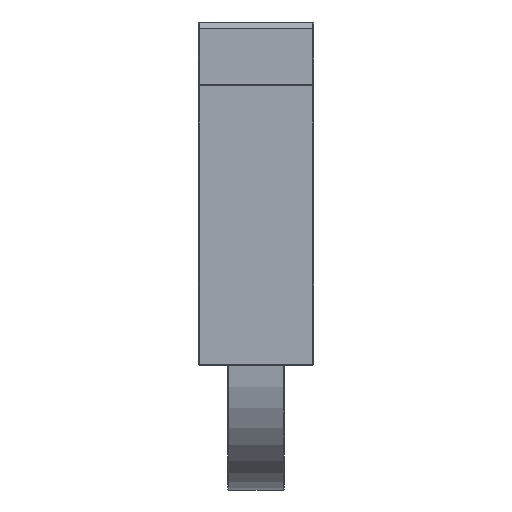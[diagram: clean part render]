
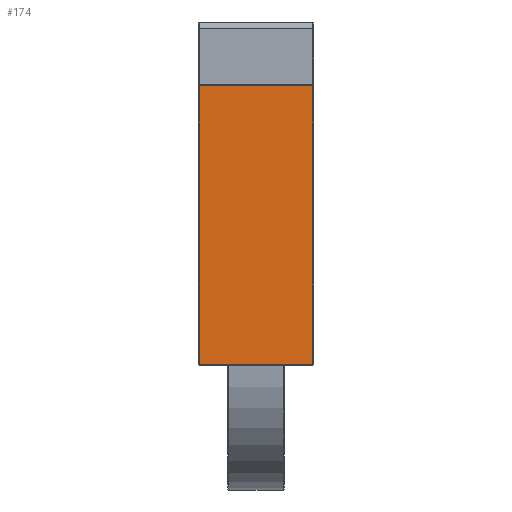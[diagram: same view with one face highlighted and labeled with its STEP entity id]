
A CAD part, left-side view. The second image highlights one B-rep face of the part: STEP entity #174.
In plain terms, the highlighted planar face has unit normal (-1, 0, 0).
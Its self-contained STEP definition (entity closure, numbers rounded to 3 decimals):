
#174 = ADVANCED_FACE( '', ( #588 ), #589, .T. );
#588 = FACE_OUTER_BOUND( '', #1465, .T. );
#589 = PLANE( '', #1466 );
#1465 = EDGE_LOOP( '', ( #2488, #2489, #2490, #2491 ) );
#1466 = AXIS2_PLACEMENT_3D( '', #2492, #2493, #2494 );
#2488 = ORIENTED_EDGE( '', *, *, #5758, .T. );
#2489 = ORIENTED_EDGE( '', *, *, #5759, .T. );
#2490 = ORIENTED_EDGE( '', *, *, #5760, .T. );
#2491 = ORIENTED_EDGE( '', *, *, #5761, .T. );
#2492 = CARTESIAN_POINT( '', ( -80., -18.5, 0. ) );
#2493 = DIRECTION( '', ( -1., 0., 0. ) );
#2494 = DIRECTION( '', ( 0., 0., 1. ) );
#5758 = EDGE_CURVE( '', #6954, #6955, #6956, .T. );
#5759 = EDGE_CURVE( '', #6955, #6957, #6958, .T. );
#5760 = EDGE_CURVE( '', #6957, #6959, #6960, .T. );
#5761 = EDGE_CURVE( '', #6959, #6954, #6961, .T. );
#6954 = VERTEX_POINT( '', #8771 );
#6955 = VERTEX_POINT( '', #8772 );
#6956 = LINE( '', #8773, #8774 );
#6957 = VERTEX_POINT( '', #8775 );
#6958 = LINE( '', #8776, #8777 );
#6959 = VERTEX_POINT( '', #8778 );
#6960 = LINE( '', #8779, #8780 );
#6961 = LINE( '', #8781, #8782 );
#8771 = CARTESIAN_POINT( '', ( -80., -18.2, 89.5 ) );
#8772 = CARTESIAN_POINT( '', ( -80., 18.2, 89.5 ) );
#8773 = CARTESIAN_POINT( '', ( -80., -18.5, 89.5 ) );
#8774 = VECTOR( '', #11882, 1000. );
#8775 = CARTESIAN_POINT( '', ( -80., 18.2, 0.3 ) );
#8776 = CARTESIAN_POINT( '', ( -80., 18.2, 0. ) );
#8777 = VECTOR( '', #11883, 1000. );
#8778 = CARTESIAN_POINT( '', ( -80., -18.2, 0.3 ) );
#8779 = CARTESIAN_POINT( '', ( -80., -18.5, 0.3 ) );
#8780 = VECTOR( '', #11884, 1000. );
#8781 = CARTESIAN_POINT( '', ( -80., -18.2, 89.5 ) );
#8782 = VECTOR( '', #11885, 1000. );
#11882 = DIRECTION( '', ( 0., 1., 0. ) );
#11883 = DIRECTION( '', ( 0., 0., -1. ) );
#11884 = DIRECTION( '', ( 0., -1., 0. ) );
#11885 = DIRECTION( '', ( 0., 0., 1. ) );
